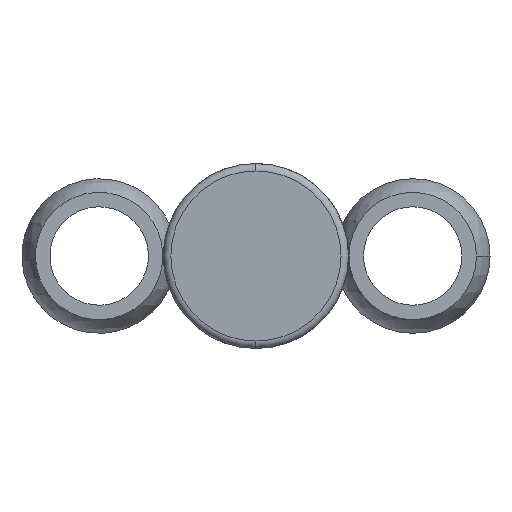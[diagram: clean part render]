
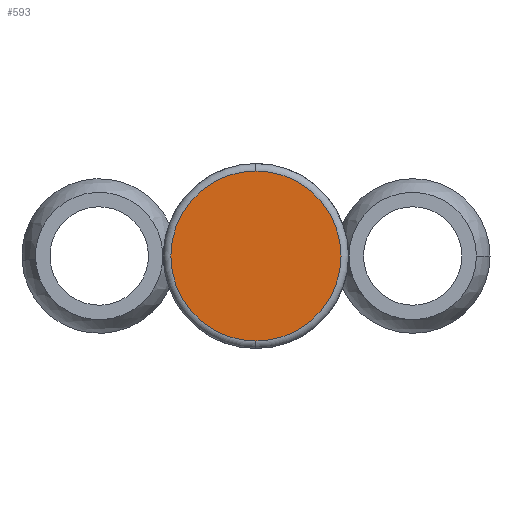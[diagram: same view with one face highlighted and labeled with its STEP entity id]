
A CAD part, front view. The second image highlights one B-rep face of the part: STEP entity #593.
In plain terms, the highlighted planar face has unit normal (0, -1, 0).
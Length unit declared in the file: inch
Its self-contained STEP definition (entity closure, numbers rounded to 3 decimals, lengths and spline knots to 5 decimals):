
#14 = FACE_OUTER_BOUND ( 'NONE', #1318, .T. ) ;
#177 = VERTEX_POINT ( 'NONE', #290 ) ;
#236 = CARTESIAN_POINT ( 'NONE',  ( 0., -1.26, 0. ) ) ;
#290 = CARTESIAN_POINT ( 'NONE',  ( 0., -1.26, -0.34402 ) ) ;
#292 = DIRECTION ( 'NONE',  ( 0., 0., 1. ) ) ;
#350 = EDGE_CURVE ( 'NONE', #177, #607, #475, .T. ) ;
#408 = CARTESIAN_POINT ( 'NONE',  ( 0., -1.26, 0. ) ) ;
#475 = CIRCLE ( 'NONE', #679, 0.34402 ) ;
#478 = DIRECTION ( 'NONE',  ( 0., -1., 0. ) ) ;
#527 = ORIENTED_EDGE ( 'NONE', *, *, #350, .T. ) ;
#593 = ADVANCED_FACE ( 'NONE', ( #14 ), #905, .F. ) ;
#606 = ORIENTED_EDGE ( 'NONE', *, *, #1412, .T. ) ;
#607 = VERTEX_POINT ( 'NONE', #1533 ) ;
#679 = AXIS2_PLACEMENT_3D ( 'NONE', #236, #478, #1365 ) ;
#785 = DIRECTION ( 'NONE',  ( 0., -1., 0. ) ) ;
#905 = PLANE ( 'NONE',  #1263 ) ;
#995 = CIRCLE ( 'NONE', #1116, 0.34402 ) ;
#1116 = AXIS2_PLACEMENT_3D ( 'NONE', #1541, #785, #1556 ) ;
#1263 = AXIS2_PLACEMENT_3D ( 'NONE', #408, #1544, #292 ) ;
#1318 = EDGE_LOOP ( 'NONE', ( #606, #527 ) ) ;
#1365 = DIRECTION ( 'NONE',  ( 0., 0., 1. ) ) ;
#1412 = EDGE_CURVE ( 'NONE', #607, #177, #995, .T. ) ;
#1533 = CARTESIAN_POINT ( 'NONE',  ( 0., -1.26, 0.34402 ) ) ;
#1541 = CARTESIAN_POINT ( 'NONE',  ( 0., -1.26, 0. ) ) ;
#1544 = DIRECTION ( 'NONE',  ( 0., 1., 0. ) ) ;
#1556 = DIRECTION ( 'NONE',  ( 0., 0., 1. ) ) ;
